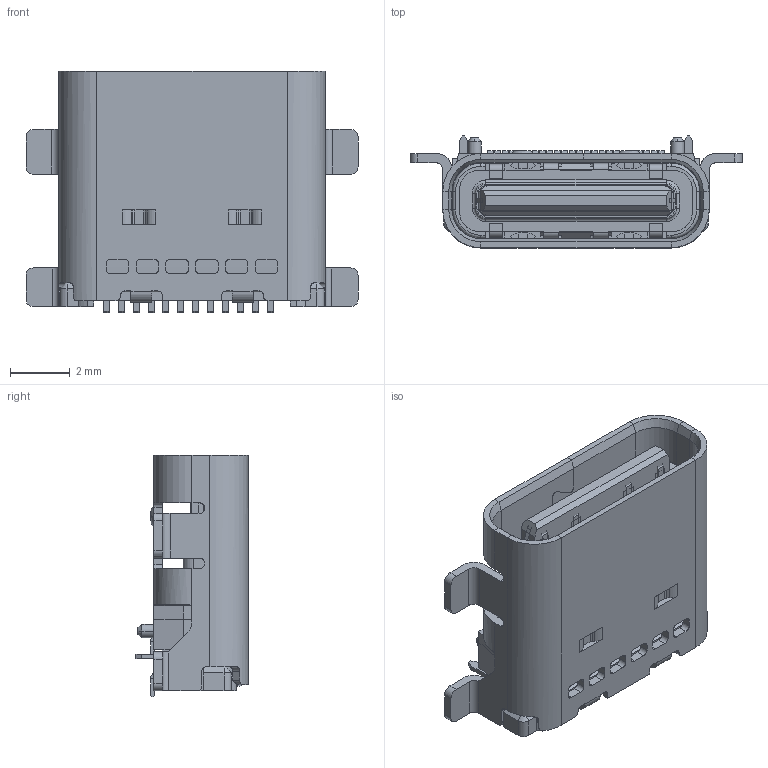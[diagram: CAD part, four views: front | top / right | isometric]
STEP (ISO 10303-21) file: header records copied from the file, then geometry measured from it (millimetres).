
FILE_DESCRIPTION (( 'STEP AP203' ), '1' );
FILE_NAME ('USB TypeCf24p板上双排SMT（四脚全贴）.STEP', '2023-12-30T06:37:36', ( '微软用户' ), ( '微软中国' ), 'SwSTEP 2.0', 'SolidWorks 2019', '' );
FILE_SCHEMA (( 'CONFIG_CONTROL_DESIGN' ));
Length unit declared in the file: millimetre
Products named in the file (1): USB TypeCf24p板上双排SMT（四脚全贴）
Bounding box: 11.14 x 3.76 x 8.1 mm (x, y, z)
Volume: 147.6 mm3; surface area: 1003.9 mm2
Topology: 50 solids, 50 shells, 2353 faces, 5934 edges, 3680 vertices
Faces by surface type: plane 1719, cylinder 562, cone 34, bspline 20, torus 18
Entity records: 69800 total; most frequent: CARTESIAN_POINT 12731, ORIENTED_EDGE 11868, DIRECTION 11698, EDGE_CURVE 5934, VECTOR 4666, LINE 4666, VERTEX_POINT 3680, AXIS2_PLACEMENT_3D 3516
